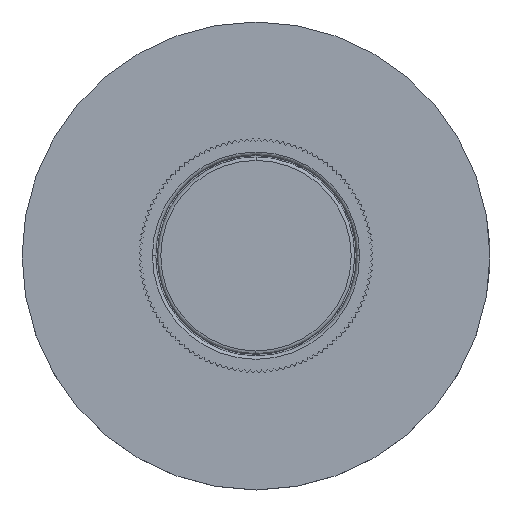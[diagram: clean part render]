
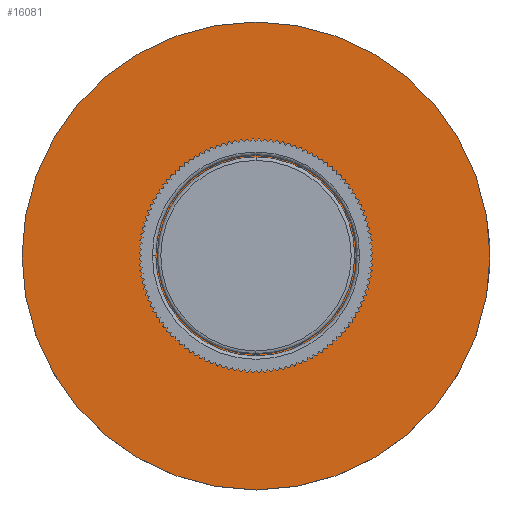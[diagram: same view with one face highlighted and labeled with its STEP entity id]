
A CAD part, top view. The second image highlights one B-rep face of the part: STEP entity #16081.
In plain terms, the highlighted planar face has unit normal (0, 0, 1).
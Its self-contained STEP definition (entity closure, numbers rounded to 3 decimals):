
#16056=CARTESIAN_POINT('',(-35.01,-35.01,-10.1));
#16057=DIRECTION('',(0.0,0.0,1.0));
#16058=DIRECTION('',(1.0,0.0,0.0));
#16059=AXIS2_PLACEMENT_3D('',#16056,#16057,#16058);
#16060=PLANE('',#16059);
#16061=CARTESIAN_POINT('',(35.0,0.,-10.1));
#16062=VERTEX_POINT('',#16061);
#16063=CARTESIAN_POINT('',(-35.0,0.0,-10.1));
#16064=VERTEX_POINT('',#16063);
#16065=CARTESIAN_POINT('',(0.0,0.0,-10.1));
#16066=DIRECTION('',(0.0,0.0,1.0));
#16067=DIRECTION('',(1.0,0.0,0.0));
#16068=AXIS2_PLACEMENT_3D('',#16065,#16066,#16067);
#16069=CIRCLE('',#16068,35.0);
#16070=EDGE_CURVE('',#16062,#16064,#16069,.T.);
#16071=ORIENTED_EDGE('',*,*,#16070,.T.);
#16072=CARTESIAN_POINT('',(0.0,0.0,-10.1));
#16073=DIRECTION('',(0.0,0.0,1.0));
#16074=DIRECTION('',(1.0,0.0,0.0));
#16075=AXIS2_PLACEMENT_3D('',#16072,#16073,#16074);
#16076=CIRCLE('',#16075,35.0);
#16077=EDGE_CURVE('',#16064,#16062,#16076,.T.);
#16078=ORIENTED_EDGE('',*,*,#16077,.T.);
#16079=EDGE_LOOP('',(#16071,#16078));
#16080=FACE_OUTER_BOUND('',#16079,.T.);
#16081=ADVANCED_FACE('',(#16080),#16060,.T.);
